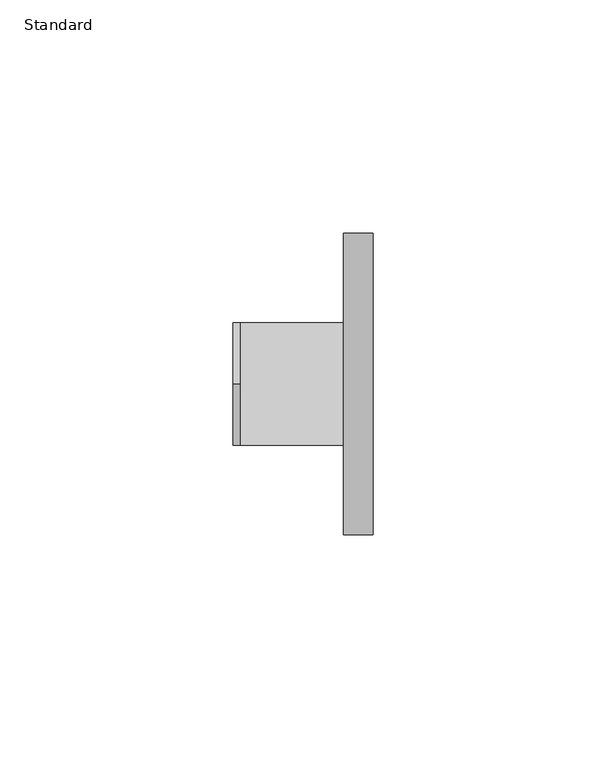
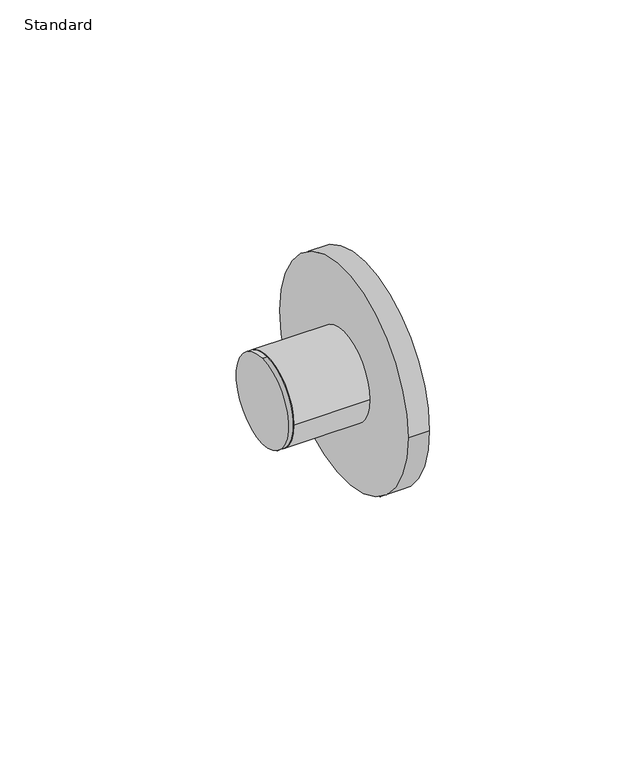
"""IFC4 building model written with IfcOpenShell, lengths in millimetres: pipe fitting geometry, Reducion Bushing_Lubrizol_CPVC_FlowGuard_MX : Standard."""

from ifc_helpers import new_model, si_unit, point, frame, origin, origin_2d, place, context, project, spatial, circle_curve, trimmed, segment, composite_curve, outline, extrude, source, transform, mapped, element, save


def standard_fa2b7821(model_context):
    return source(origin(), model_context, "Body", "SweptSolid", [
        extrude(outline(composite_curve([segment(trimmed(circle_curve(origin_2d(), 13.11), [point((-13.11, 0.0))], [point((13.11, 0.0))], False, "CARTESIAN"), True, "CONTINUOUS"), segment(trimmed(circle_curve(origin_2d(), 13.11), [point((13.11, 0.0))], [point((-13.11, 0.0))], False, "CARTESIAN"), True, "CONTINUOUS")], self_intersect=False)), frame((1.625, 0.0, 0.0), z_axis=(1.0, 0.0, 0.0), x_axis=(0.0, 1.0, 0.0)), (0.0, 0.0, 1.0), 22.138),
        extrude(outline(composite_curve([segment(trimmed(circle_curve(origin_2d(), 32.35), [point((-32.35, 0.0))], [point((32.35, 0.0))], False, "CARTESIAN"), True, "CONTINUOUS"), segment(trimmed(circle_curve(origin_2d(), 32.35), [point((32.35, 0.0))], [point((-32.35, 0.0))], False, "CARTESIAN"), True, "CONTINUOUS")], self_intersect=False)), frame((23.763, 0.0, 0.0), z_axis=(1.0, 0.0, 0.0), x_axis=(0.0, 1.0, 0.0)), (0.0, 0.0, 1.0), 6.25),
        extrude(outline(composite_curve([segment(trimmed(circle_curve(origin_2d(), 13.11), [point((0.0, 13.11))], [point((0.0, -13.11))], False, "CARTESIAN"), True, "CONTINUOUS"), segment(trimmed(circle_curve(origin_2d(), 13.11), [point((0.0, -13.11))], [point((0.0, 13.11))], False, "CARTESIAN"), True, "CONTINUOUS")], self_intersect=False)), frame((0.0, 0.0, 0.0), z_axis=(1.0, 0.0, 0.0), x_axis=(0.0, 1.0, 0.0)), (0.0, 0.0, 1.0), 1.625),
    ])


if __name__ == "__main__":
    model = new_model("IFC4")
    model_context = context("Model", 3, world=origin())
    ifc_project = project(units=[si_unit("LENGTHUNIT", "METRE", prefix="MILLI")], contexts=[model_context])
    site = spatial("IfcSite", under=ifc_project)
    building = spatial("IfcBuilding", under=site)
    placement = place(None, origin())
    standard_shape = standard_fa2b7821(model_context)
    element("IfcPipeFitting", 1, ObjectType="Reducion Bushing_Lubrizol_CPVC_FlowGuard_MX : Standard", at=placement, inside=building, context=model_context, shape_type="MappedRepresentation", body=[
        mapped(standard_shape, transform((0.0, 0.0, 0.0), x_axis=(1.0, 0.0, 0.0), y_axis=(0.0, 1.0, 0.0), z_axis=(0.0, 0.0, 1.0))),
    ])
    save(model, "model.ifc")
